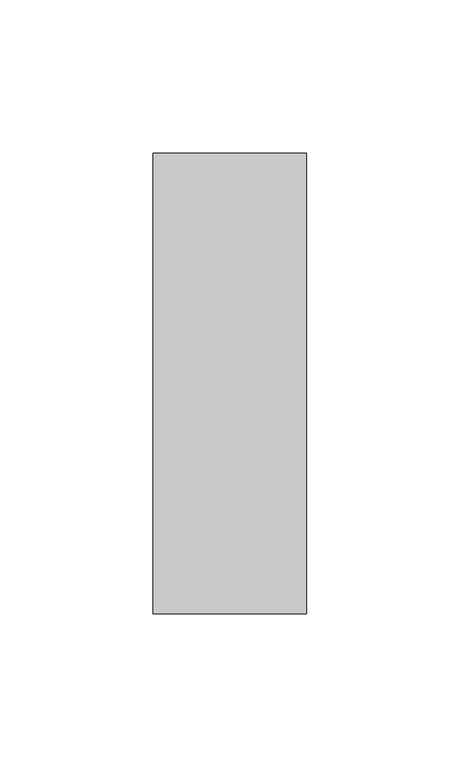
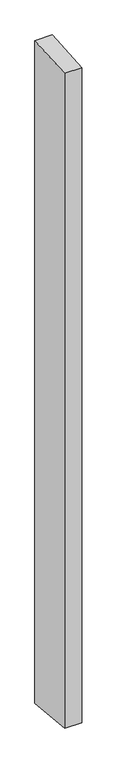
"""IFC4 building model written with IfcOpenShell, lengths in millimetres: member geometry, Прямоугольный импост : 50 x 150 мм."""

from ifc_helpers import new_model, si_unit, origin, place, context, project, spatial, faceted_brep, source, transform, mapped, element, save


def member_adcd5301(model_context):
    return source(origin(), model_context, "Body", "Brep", [
        faceted_brep([(-25.0, 75.0, 4.2876546), (25.0, 75.0, 4.9367951), (25.0, 75.0, -2031.9087224), (-25.0, 75.0, -2031.0484349), (-25.0, -75.0, -4.9367951), (-25.0, -75.0, -2017.547004), (25.0, -75.0, -4.2876546), (25.0, -75.0, -2018.4072916)], [[[0, 1, 2, 3]], [[4, 0, 3, 5]], [[6, 4, 5, 7]], [[1, 6, 7, 2]], [[1, 0, 4, 6]], [[2, 7, 5, 3]]]),
    ])


if __name__ == "__main__":
    model = new_model("IFC4")
    model_context = context("Model", 3, world=origin())
    ifc_project = project(units=[si_unit("LENGTHUNIT", "METRE", prefix="MILLI")], contexts=[model_context])
    site = spatial("IfcSite", under=ifc_project)
    building = spatial("IfcBuilding", under=site)
    placement = place(None, origin())
    member_shape = member_adcd5301(model_context)
    element("IfcMember", 1, ObjectType="Прямоугольный импост : 50 x 150 мм", at=placement, inside=building, context=model_context, shape_type="MappedRepresentation", body=[
        mapped(member_shape, transform((0.0, 0.0, 0.0), x_axis=(1.0, 0.0, 0.0), y_axis=(0.0, 1.0, 0.0), z_axis=(0.0, 0.0, 1.0))),
    ])
    save(model, "model.ifc")
